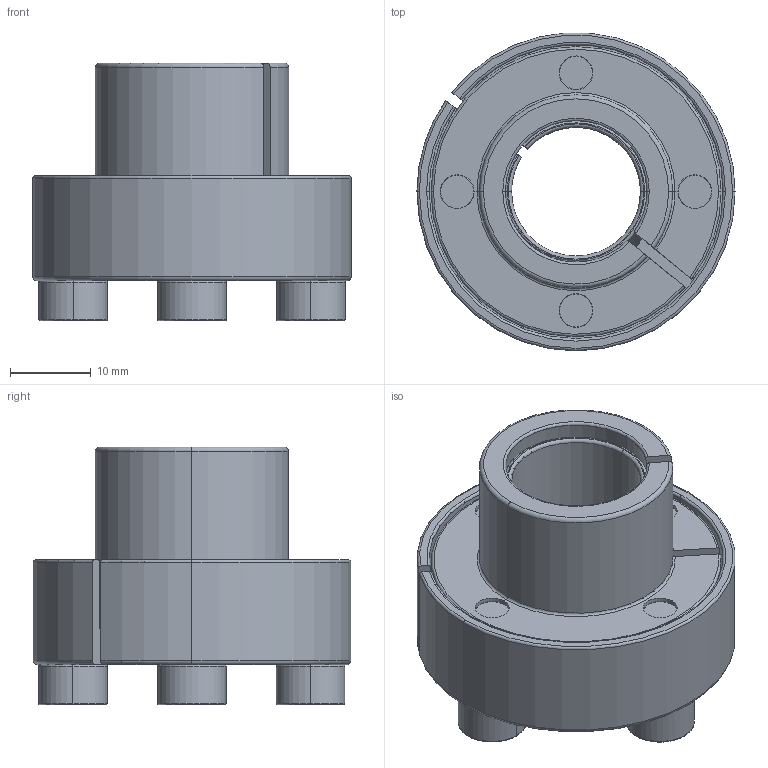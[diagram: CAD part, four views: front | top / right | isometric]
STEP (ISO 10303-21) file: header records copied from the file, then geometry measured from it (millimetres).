
FILE_DESCRIPTION (( 'STEP AP203' ), '1' );
FILE_NAME ('SAPL-C-16-24.STEP', '2013-07-23T09:02:45', ( 'MYCOM' ), ( '' ), 'SwSTEP 2.0', 'SolidWorks 2012', '' );
FILE_SCHEMA (( 'CONFIG_CONTROL_DESIGN' ));
Length unit declared in the file: millimetre
Products named in the file (1): SAPL-C-16-24
Bounding box: 39.5 x 39.45 x 32 mm (x, y, z)
Volume: 15323.3 mm3; surface area: 11010.1 mm2
Topology: 1 solids, 1 shells, 238 faces, 570 edges, 340 vertices
Faces by surface type: plane 73, cylinder 68, torus 60, cone 37
Entity records: 7050 total; most frequent: DIRECTION 1310, CARTESIAN_POINT 1296, ORIENTED_EDGE 1124, EDGE_CURVE 562, AXIS2_PLACEMENT_3D 543, VERTEX_POINT 340, CIRCLE 304, EDGE_LOOP 266
